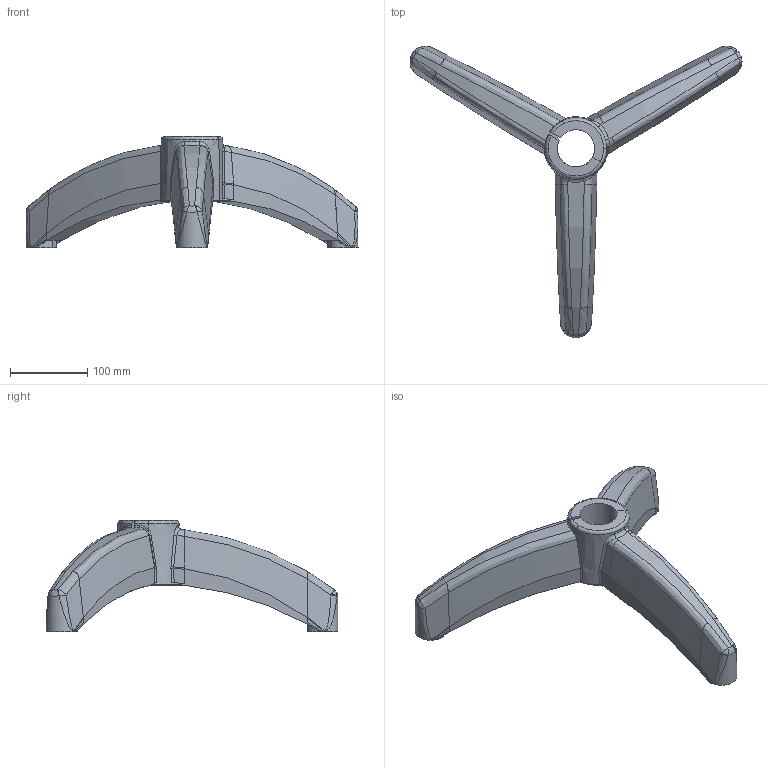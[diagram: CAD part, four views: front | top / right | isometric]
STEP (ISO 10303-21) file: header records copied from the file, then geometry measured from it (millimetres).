
FILE_DESCRIPTION(('STEP AP214'),'1');
FILE_NAME('P40401_01','2017-05-04T09:21:22',('dentellad'),(' '),'Spatial InterOp 3D',' ',' ');
FILE_SCHEMA(('automotive_design'));
Length unit declared in the file: millimetre
Products named in the file (1): 1
Bounding box: 429.7 x 377.5 x 144.73 mm (x, y, z)
Volume: 1966323.3 mm3; surface area: 214118.1 mm2
Topology: 1 solids, 21 shells, 668 faces, 1655 edges, 947 vertices
Faces by surface type: bspline 279, cylinder 109, plane 95, sphere 90, cone 36, torus 31, extrusion 28
Entity records: 49959 total; most frequent: CARTESIAN_POINT 24378, ORIENTED_EDGE 3138, STYLED_ITEM 2236, PRESENTATION_STYLE_ASSIGNMENT 2236, COLOUR_RGB 2236, EDGE_CURVE 1569, CURVE_STYLE 1567, DRAUGHTING_PRE_DEFINED_CURVE_FONT 1567
